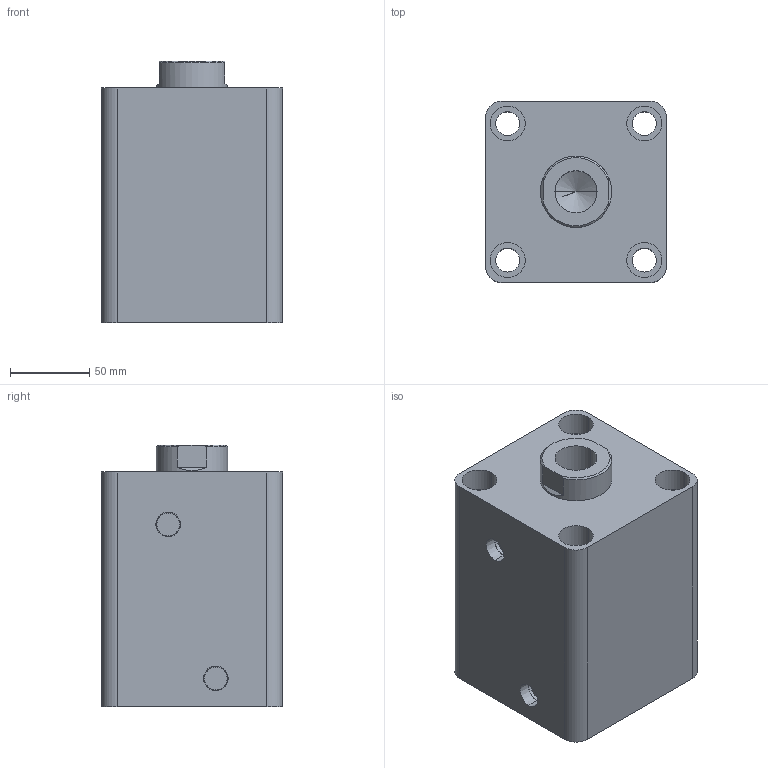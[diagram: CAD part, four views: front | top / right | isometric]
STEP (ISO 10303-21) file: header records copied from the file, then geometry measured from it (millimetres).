
FILE_DESCRIPTION (( 'STEP AP203' ), '1' );
FILE_NAME ('HTB-SD80-70N.STEP', '2019-10-07T08:32:52', ( '微软用户' ), ( '微软中国' ), 'SwSTEP 2.0', 'SolidWorks 2012', '' );
FILE_SCHEMA (( 'CONFIG_CONTROL_DESIGN' ));
Length unit declared in the file: millimetre
Products named in the file (3): HTB-SD80-70N; HTB-SD80-70N活塞杆; HTB-SD80-70掛极
Assembly tree (2 placements, depth 2):
  HTB-SD80-70N
    HTB-SD80-70掛极
    HTB-SD80-70N活塞杆
Bounding box: 114 x 114 x 165 mm (x, y, z)
Volume: 1542914.4 mm3; surface area: 194943.8 mm2
Topology: 2 solids, 2 shells, 83 faces, 184 edges, 119 vertices
Faces by surface type: cylinder 42, plane 27, cone 8, torus 6
Entity records: 2655 total; most frequent: DIRECTION 456, CARTESIAN_POINT 417, ORIENTED_EDGE 364, AXIS2_PLACEMENT_3D 194, EDGE_CURVE 182, VERTEX_POINT 119, EDGE_LOOP 107, CIRCLE 106
